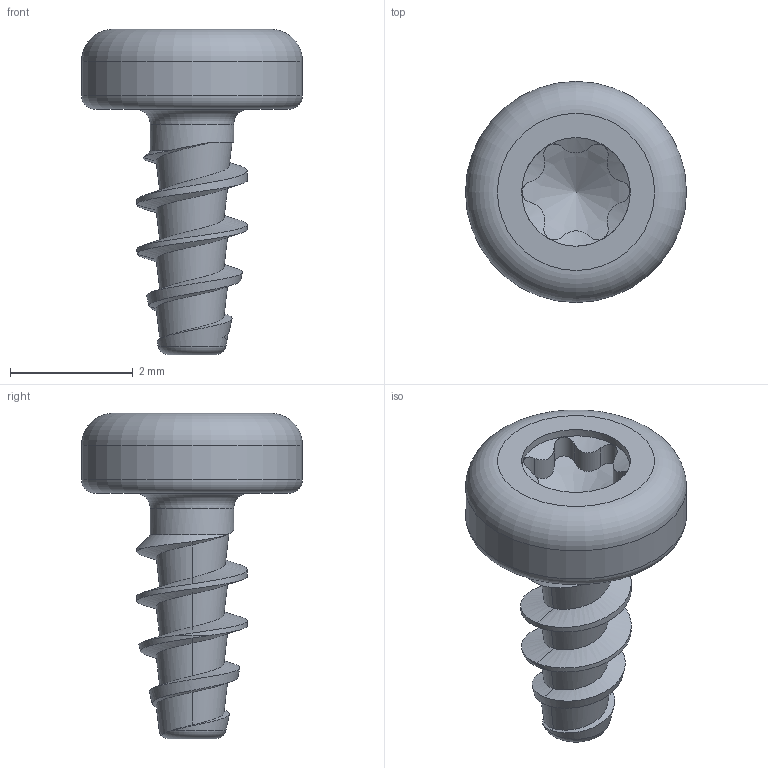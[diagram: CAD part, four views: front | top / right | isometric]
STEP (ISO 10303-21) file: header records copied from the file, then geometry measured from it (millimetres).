
FILE_DESCRIPTION(/* description */ (''),/* implementation_level */ '2;1');
FILE_NAME(/* name */ 'KN1039-STS-18x4-T6.step',/* time_stamp */ '2017-10-12T16:09:05+02:00',/* author */ (''),/* organization */ (''),/* preprocessor_version */ 'ST-DEVELOPER v16',/* originating_system */ 'SIEMENS PLM Software NX 10.0',/* authorisation */ '');
FILE_SCHEMA (('AUTOMOTIVE_DESIGN { 1 0 10303 214 3 1 1 1 }'));
Length unit declared in the file: millimetre
Products named in the file (1): KN1039-STS-18x4-T6
Bounding box: 3.6 x 3.6 x 5.3 mm (x, y, z)
Volume: 16.2 mm3; surface area: 56.1 mm2
Topology: 1 solids, 1 shells, 43 faces, 109 edges, 69 vertices
Faces by surface type: cylinder 16, bspline 15, cone 4, torus 4, plane 4
Full cylindrical faces by diameter (mm): 1.36 x1, 1.77 x1, 3.6 x1
Entity records: 2553 total; most frequent: CARTESIAN_POINT 1714, ORIENTED_EDGE 188, DIRECTION 110, EDGE_CURVE 94, VERTEX_POINT 64, B_SPLINE_CURVE_WITH_KNOTS 56, EDGE_LOOP 53, ADVANCED_FACE 43
